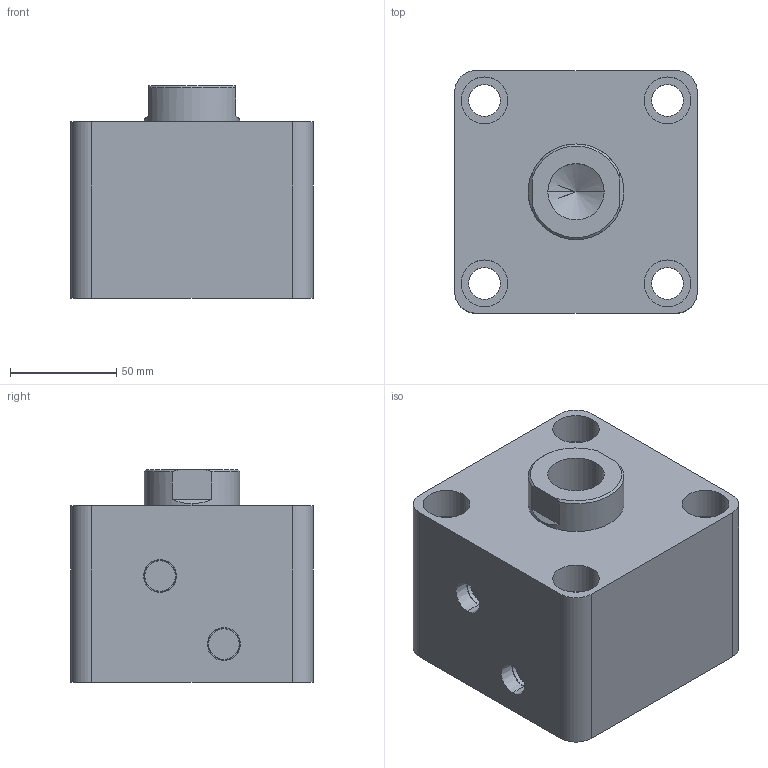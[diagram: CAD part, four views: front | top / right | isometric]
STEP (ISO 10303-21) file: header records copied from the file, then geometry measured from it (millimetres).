
FILE_DESCRIPTION (( 'STEP AP203' ), '1' );
FILE_NAME ('HTB-SD80-5N.STEP', '2019-10-07T08:12:26', ( '微软用户' ), ( '微软中国' ), 'SwSTEP 2.0', 'SolidWorks 2012', '' );
FILE_SCHEMA (( 'CONFIG_CONTROL_DESIGN' ));
Length unit declared in the file: millimetre
Products named in the file (3): HTB-SD80-5N; HTB-SD80-5N活塞杆; HTB-SD80-5掛极
Assembly tree (2 placements, depth 2):
  HTB-SD80-5N
    HTB-SD80-5掛极
    HTB-SD80-5N活塞杆
Bounding box: 114 x 114 x 100 mm (x, y, z)
Volume: 973047.4 mm3; surface area: 128642 mm2
Topology: 2 solids, 2 shells, 83 faces, 184 edges, 119 vertices
Faces by surface type: cylinder 42, plane 27, cone 8, torus 6
Entity records: 2655 total; most frequent: DIRECTION 456, CARTESIAN_POINT 417, ORIENTED_EDGE 364, AXIS2_PLACEMENT_3D 194, EDGE_CURVE 182, VERTEX_POINT 119, EDGE_LOOP 107, CIRCLE 106
